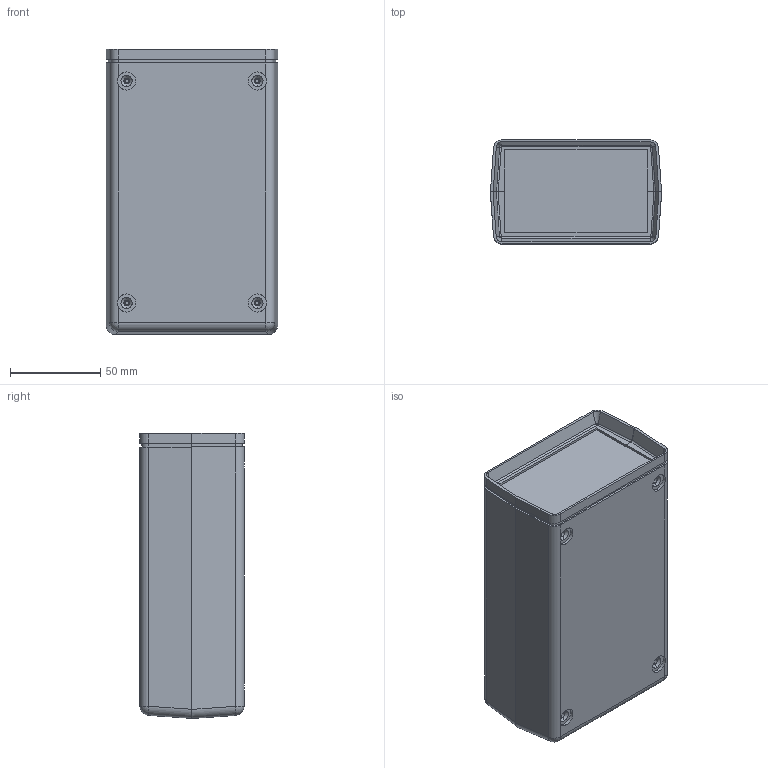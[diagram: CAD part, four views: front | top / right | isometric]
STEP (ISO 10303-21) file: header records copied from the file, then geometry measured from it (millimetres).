
FILE_DESCRIPTION (( 'STEP AP214' ), '1' );
FILE_NAME ('UOCM-223.STEP', '2020-05-22T21:14:52', ( 'Rudy' ), ( '' ), 'SwSTEP 2.0', 'SolidWorks 2014', '' );
FILE_SCHEMA (( 'AUTOMOTIVE_DESIGN' ));
Length unit declared in the file: inch
Products named in the file (4): UOCM-223; UOCM-Deep bottom; UOCM-Deep Top ; UOCM-L
Assembly tree (3 placements, depth 2):
  UOCM-223
    UOCM-Deep bottom
    UOCM-Deep Top 
    UOCM-L
Bounding box: 95 x 57.65 x 158 mm (x, y, z)
Volume: 173028.7 mm3; surface area: 124399 mm2
Topology: 3 solids, 3 shells, 794 faces, 2130 edges, 1370 vertices
Faces by surface type: plane 330, cylinder 264, torus 94, cone 92, bspline 10, sphere 4
Entity records: 25302 total; most frequent: CARTESIAN_POINT 5634, ORIENTED_EDGE 4252, DIRECTION 4022, EDGE_CURVE 2126, AXIS2_PLACEMENT_3D 1422, VERTEX_POINT 1370, LINE 1178, VECTOR 1178
